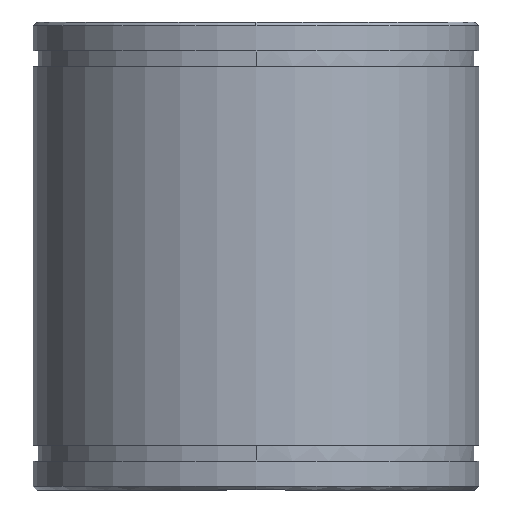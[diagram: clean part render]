
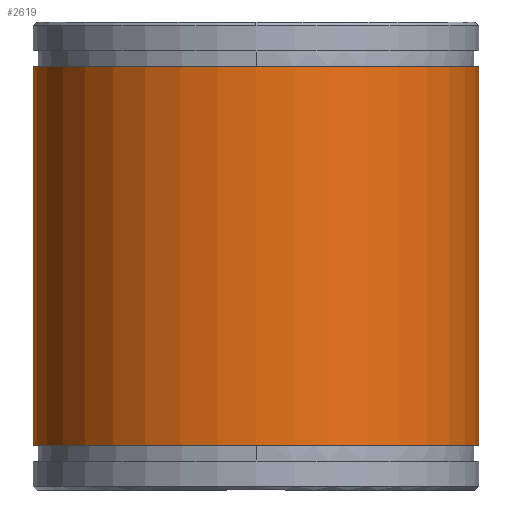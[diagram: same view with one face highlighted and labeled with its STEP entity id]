
A CAD part, front view. The second image highlights one B-rep face of the part: STEP entity #2619.
In plain terms, the highlighted cylindrical face has radius 30 mm (diameter 60 mm), a partial arc.
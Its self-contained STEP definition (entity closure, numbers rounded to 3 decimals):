
#1674=CARTESIAN_POINT('Axis2P3D Location',(0.,0.,57.)) ;
#1678=CARTESIAN_POINT('Vertex',(-30.,0.,57.)) ;
#1680=CARTESIAN_POINT('Vertex',(30.,0.,57.)) ;
#2589=CARTESIAN_POINT('Axis2P3D Location',(0.,0.,-3.15)) ;
#2594=CARTESIAN_POINT('Line Origine',(30.,0.,-3.15)) ;
#2598=CARTESIAN_POINT('Vertex',(30.,0.,6.)) ;
#2601=CARTESIAN_POINT('Line Origine',(-30.,0.,-3.15)) ;
#2605=CARTESIAN_POINT('Vertex',(-30.,0.,6.)) ;
#2608=CARTESIAN_POINT('Axis2P3D Location',(0.,0.,6.)) ;
#1675=DIRECTION('Axis2P3D Direction',(0.,-0.,1.)) ;
#2590=DIRECTION('Axis2P3D Direction',(0.,0.,1.)) ;
#2591=DIRECTION('Axis2P3D XDirection',(-1.,0.,0.)) ;
#2595=DIRECTION('Vector Direction',(0.,0.,1.)) ;
#2602=DIRECTION('Vector Direction',(0.,0.,1.)) ;
#2609=DIRECTION('Axis2P3D Direction',(0.,0.,1.)) ;
#1676=AXIS2_PLACEMENT_3D('Circle Axis2P3D',#1674,#1675,$) ;
#2592=AXIS2_PLACEMENT_3D('Cylinder Axis2P3D',#2589,#2590,#2591) ;
#2610=AXIS2_PLACEMENT_3D('Circle Axis2P3D',#2608,#2609,$) ;
#2614=ORIENTED_EDGE('',*,*,#2600,.F.) ;
#2615=ORIENTED_EDGE('',*,*,#1682,.F.) ;
#2616=ORIENTED_EDGE('',*,*,#2607,.T.) ;
#2617=ORIENTED_EDGE('',*,*,#2612,.F.) ;
#2596=VECTOR('Line Direction',#2595,1.) ;
#2603=VECTOR('Line Direction',#2602,1.) ;
#2619=ADVANCED_FACE('MANIFOLD_SOLID_BREP #2444',(#2618),#2593,.T.) ;
#1677=CIRCLE('generated circle',#1676,30.) ;
#2611=CIRCLE('generated circle',#2610,30.) ;
#2593=CYLINDRICAL_SURFACE('generated cylinder',#2592,30.) ;
#1682=EDGE_CURVE('',#1679,#1681,#1677,.T.) ;
#2600=EDGE_CURVE('',#1681,#2599,#2597,.F.) ;
#2607=EDGE_CURVE('',#1679,#2606,#2604,.F.) ;
#2612=EDGE_CURVE('',#2599,#2606,#2611,.F.) ;
#2613=EDGE_LOOP('',(#2614,#2615,#2616,#2617)) ;
#2618=FACE_OUTER_BOUND('',#2613,.T.) ;
#2597=LINE('Line',#2594,#2596) ;
#2604=LINE('Line',#2601,#2603) ;
#1679=VERTEX_POINT('',#1678) ;
#1681=VERTEX_POINT('',#1680) ;
#2599=VERTEX_POINT('',#2598) ;
#2606=VERTEX_POINT('',#2605) ;
